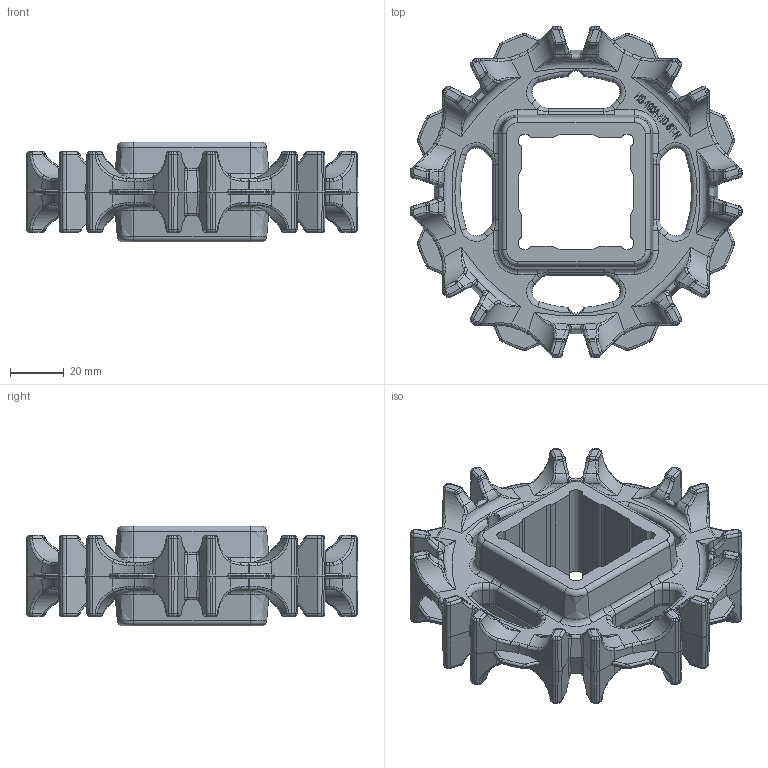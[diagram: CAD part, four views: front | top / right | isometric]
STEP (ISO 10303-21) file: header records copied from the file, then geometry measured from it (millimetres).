
FILE_DESCRIPTION(/* description */ (''),/* implementation_level */ '2;1');
FILE_NAME(/* name */ 'HS-100A-HD-N-8T.stp',/* time_stamp */ '2020-08-21T08:42:47+08:00',/* author */ (''),/* organization */ (''),/* preprocessor_version */ 'ST-DEVELOPER v15',/* originating_system */ 'SIEMENS PLM Software NX 8.5',/* authorisation */ '');
FILE_SCHEMA (('AP203_CONFIGURATION_CONTROLLED_3D_DESIGN_OF_MECHANICAL_PARTS_AND_ASSEMBLIES_MIM_LF { 1 0 10303 403 2 1 2}'));
Products named in the file (1): Admi10D42EA3e0a3
Bounding box: 123.31 x 123.31 x 37 mm (x, y, z)
Volume: 133554.7 mm3; surface area: 42047.9 mm2
Topology: 1 solids, 1 shells, 1621 faces, 3917 edges, 2151 vertices
Faces by surface type: bspline 481, cylinder 479, plane 343, torus 160, sphere 99, cone 32, extrusion 27
Entity records: 55730 total; most frequent: CARTESIAN_POINT 21780, ORIENTED_EDGE 7510, DIRECTION 6647, EDGE_CURVE 3755, AXIS2_PLACEMENT_3D 2699, VERTEX_POINT 2151, EDGE_LOOP 1646, ADVANCED_FACE 1621
